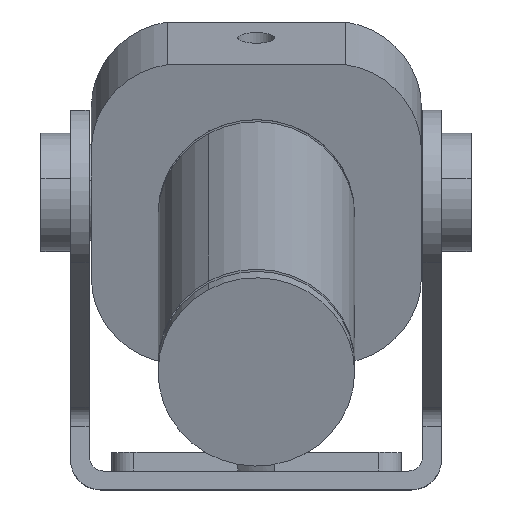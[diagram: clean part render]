
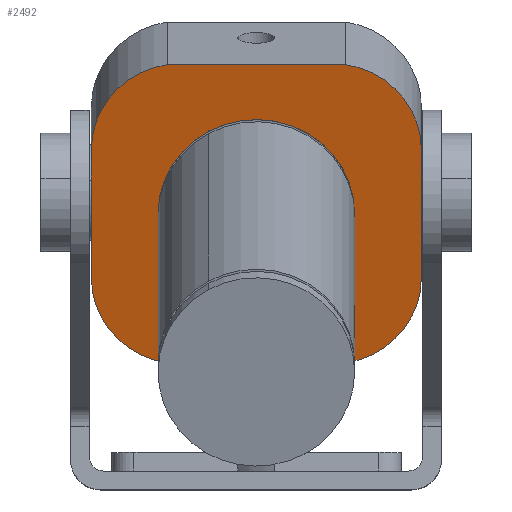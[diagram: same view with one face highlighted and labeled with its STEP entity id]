
A CAD part, top view. The second image highlights one B-rep face of the part: STEP entity #2492.
In plain terms, the highlighted planar face has unit normal (0, -0.288, 0.958) as drawn and (0, 0, -1) by its records, which use the part's own axes.
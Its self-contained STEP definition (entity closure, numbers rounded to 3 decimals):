
#16 = DIRECTION ( 'NONE',  ( 0., 0., 1. ) ) ;
#430 = VERTEX_POINT ( 'NONE', #17222 ) ;
#718 = CIRCLE ( 'NONE', #16945, 12.149 ) ;
#923 = DIRECTION ( 'NONE',  ( 0., 1., 0. ) ) ;
#990 = CARTESIAN_POINT ( 'NONE',  ( -10.25, 12., 0. ) ) ;
#1342 = EDGE_CURVE ( 'NONE', #430, #17053, #12158, .T. ) ;
#1349 = VERTEX_POINT ( 'NONE', #17835 ) ;
#1740 = VECTOR ( 'NONE', #8635, 1000. ) ;
#1921 = EDGE_CURVE ( 'NONE', #13874, #15912, #718, .T. ) ;
#1928 = EDGE_CURVE ( 'NONE', #6555, #13445, #4380, .T. ) ;
#1953 = DIRECTION ( 'NONE',  ( -1., 0., 0. ) ) ;
#2003 = ORIENTED_EDGE ( 'NONE', *, *, #1921, .F. ) ;
#2007 = DIRECTION ( 'NONE',  ( 0., 0., -1. ) ) ;
#2084 = CARTESIAN_POINT ( 'NONE',  ( 12., 21., 0. ) ) ;
#2354 = DIRECTION ( 'NONE',  ( 0., 1., 0. ) ) ;
#2420 = DIRECTION ( 'NONE',  ( 0., 0., 1. ) ) ;
#2483 = CARTESIAN_POINT ( 'NONE',  ( 22.101, 30., 0. ) ) ;
#2492 = ADVANCED_FACE ( 'NONE', ( #14984, #14508 ), #8790, .F. ) ;
#2519 = EDGE_CURVE ( 'NONE', #1349, #6167, #10432, .T. ) ;
#2579 = CARTESIAN_POINT ( 'NONE',  ( 34.25, 12., 0. ) ) ;
#3285 = ORIENTED_EDGE ( 'NONE', *, *, #9187, .F. ) ;
#3295 = CIRCLE ( 'NONE', #8493, 13.25 ) ;
#3378 = CARTESIAN_POINT ( 'NONE',  ( 34.25, 30., 0. ) ) ;
#3529 = CIRCLE ( 'NONE', #7950, 12.149 ) ;
#3782 = ORIENTED_EDGE ( 'NONE', *, *, #1342, .F. ) ;
#4039 = ORIENTED_EDGE ( 'NONE', *, *, #8560, .F. ) ;
#4380 = CIRCLE ( 'NONE', #10738, 13.25 ) ;
#4570 = DIRECTION ( 'NONE',  ( 0., 0., -1. ) ) ;
#4846 = ORIENTED_EDGE ( 'NONE', *, *, #2519, .F. ) ;
#6167 = VERTEX_POINT ( 'NONE', #2579 ) ;
#6353 = LINE ( 'NONE', #10173, #1740 ) ;
#6554 = ORIENTED_EDGE ( 'NONE', *, *, #1928, .F. ) ;
#6555 = VERTEX_POINT ( 'NONE', #9908 ) ;
#6646 = ORIENTED_EDGE ( 'NONE', *, *, #6696, .F. ) ;
#6696 = EDGE_CURVE ( 'NONE', #15912, #7692, #6353, .T. ) ;
#6851 = DIRECTION ( 'NONE',  ( 0., 0., 1. ) ) ;
#7345 = DIRECTION ( 'NONE',  ( 0., 1., 0. ) ) ;
#7464 = LINE ( 'NONE', #19717, #19805 ) ;
#7486 = DIRECTION ( 'NONE',  ( 0., 0., 1. ) ) ;
#7609 = CARTESIAN_POINT ( 'NONE',  ( 22.101, 12., 0. ) ) ;
#7692 = VERTEX_POINT ( 'NONE', #11404 ) ;
#7950 = AXIS2_PLACEMENT_3D ( 'NONE', #16135, #6851, #17692 ) ;
#7999 = CIRCLE ( 'NONE', #14781, 12.149 ) ;
#8228 = DIRECTION ( 'NONE',  ( 1., 0., 0. ) ) ;
#8299 = DIRECTION ( 'NONE',  ( 0., 0., 1. ) ) ;
#8493 = AXIS2_PLACEMENT_3D ( 'NONE', #13852, #4570, #15400 ) ;
#8560 = EDGE_CURVE ( 'NONE', #17053, #19333, #7999, .T. ) ;
#8635 = DIRECTION ( 'NONE',  ( -1., 0., 0. ) ) ;
#8790 = PLANE ( 'NONE',  #11919 ) ;
#8826 = AXIS2_PLACEMENT_3D ( 'NONE', #7609, #7486, #7345 ) ;
#9187 = EDGE_CURVE ( 'NONE', #13445, #6555, #3295, .T. ) ;
#9336 = CARTESIAN_POINT ( 'NONE',  ( 1.899, 12., 0. ) ) ;
#9406 = LINE ( 'NONE', #10244, #13039 ) ;
#9908 = CARTESIAN_POINT ( 'NONE',  ( -1.25, 21., 0. ) ) ;
#10067 = CARTESIAN_POINT ( 'NONE',  ( -10.25, 0., 0. ) ) ;
#10173 = CARTESIAN_POINT ( 'NONE',  ( 12., 42., 0. ) ) ;
#10204 = CARTESIAN_POINT ( 'NONE',  ( 0., 0., 0. ) ) ;
#10244 = CARTESIAN_POINT ( 'NONE',  ( 34.25, 21., 0. ) ) ;
#10432 = CIRCLE ( 'NONE', #8826, 12.149 ) ;
#10469 = DIRECTION ( 'NONE',  ( 1., 0., 0. ) ) ;
#10738 = AXIS2_PLACEMENT_3D ( 'NONE', #2084, #2007, #1953 ) ;
#10904 = DIRECTION ( 'NONE',  ( 0., 1., 0. ) ) ;
#11085 = ORIENTED_EDGE ( 'NONE', *, *, #16660, .F. ) ;
#11404 = CARTESIAN_POINT ( 'NONE',  ( 0., 42., 0. ) ) ;
#11738 = CARTESIAN_POINT ( 'NONE',  ( -10.25, 21., 0. ) ) ;
#11919 = AXIS2_PLACEMENT_3D ( 'NONE', #10067, #8299, #8228 ) ;
#12158 = LINE ( 'NONE', #11738, #19917 ) ;
#12605 = EDGE_LOOP ( 'NONE', ( #6554, #3285 ) ) ;
#12948 = EDGE_CURVE ( 'NONE', #6167, #13874, #9406, .T. ) ;
#13039 = VECTOR ( 'NONE', #923, 1000. ) ;
#13445 = VERTEX_POINT ( 'NONE', #16567 ) ;
#13852 = CARTESIAN_POINT ( 'NONE',  ( 12., 21., 0. ) ) ;
#13874 = VERTEX_POINT ( 'NONE', #3378 ) ;
#14248 = ORIENTED_EDGE ( 'NONE', *, *, #16845, .F. ) ;
#14508 = FACE_OUTER_BOUND ( 'NONE', #16557, .T. ) ;
#14781 = AXIS2_PLACEMENT_3D ( 'NONE', #9336, #16, #10904 ) ;
#14984 = FACE_BOUND ( 'NONE', #12605, .T. ) ;
#15400 = DIRECTION ( 'NONE',  ( -1., 0., 0. ) ) ;
#15598 = ORIENTED_EDGE ( 'NONE', *, *, #12948, .F. ) ;
#15837 = CARTESIAN_POINT ( 'NONE',  ( 24., 42., 0. ) ) ;
#15912 = VERTEX_POINT ( 'NONE', #15837 ) ;
#16072 = DIRECTION ( 'NONE',  ( 0., -1., 0. ) ) ;
#16135 = CARTESIAN_POINT ( 'NONE',  ( 1.899, 30., 0. ) ) ;
#16557 = EDGE_LOOP ( 'NONE', ( #3782, #14248, #6646, #2003, #15598, #4846, #11085, #4039 ) ) ;
#16567 = CARTESIAN_POINT ( 'NONE',  ( 25.25, 21., 0. ) ) ;
#16660 = EDGE_CURVE ( 'NONE', #19333, #1349, #7464, .T. ) ;
#16845 = EDGE_CURVE ( 'NONE', #7692, #430, #3529, .T. ) ;
#16945 = AXIS2_PLACEMENT_3D ( 'NONE', #2483, #2420, #2354 ) ;
#17053 = VERTEX_POINT ( 'NONE', #990 ) ;
#17222 = CARTESIAN_POINT ( 'NONE',  ( -10.25, 30., 0. ) ) ;
#17692 = DIRECTION ( 'NONE',  ( 0., 1., 0. ) ) ;
#17835 = CARTESIAN_POINT ( 'NONE',  ( 24., 0., 0. ) ) ;
#19333 = VERTEX_POINT ( 'NONE', #10204 ) ;
#19717 = CARTESIAN_POINT ( 'NONE',  ( 12., 0., 0. ) ) ;
#19805 = VECTOR ( 'NONE', #10469, 1000. ) ;
#19917 = VECTOR ( 'NONE', #16072, 1000. ) ;
